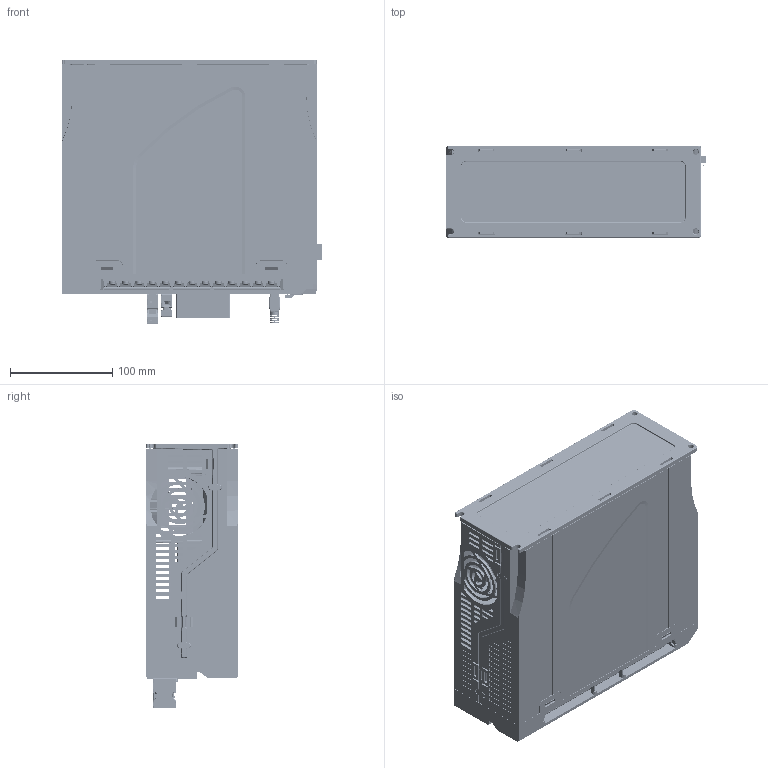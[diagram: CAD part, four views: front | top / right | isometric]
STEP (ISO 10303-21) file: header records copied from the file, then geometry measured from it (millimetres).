
FILE_DESCRIPTION((''),'2;1');
FILE_NAME('M56S-317ARF','2023-08-16T15:47:32',('ms27526'),(''),'CREO PARAMETRIC BY PTC INC, 2018100','CREO PARAMETRIC BY PTC INC, 2018100','');
FILE_SCHEMA(('CONFIG_CONTROL_DESIGN'));
Products named in the file (1): M56S-317ARF
Bounding box: 255.23 x 90.1 x 259.67 mm (x, y, z)
Volume: 574925.9 mm3; surface area: 723130.5 mm2
Topology: 10 solids, 80 shells, 13943 faces, 38307 edges, 24519 vertices
Faces by surface type: plane 8957, cylinder 3514, bspline 736, torus 262, cone 231, sphere 184, extrusion 59
Entity records: 480465 total; most frequent: CARTESIAN_POINT 128468, ORIENTED_EDGE 75566, DIRECTION 68611, EDGE_CURVE 38085, VECTOR 28017, LINE 27958, VERTEX_POINT 24522, AXIS2_PLACEMENT_3D 20297
